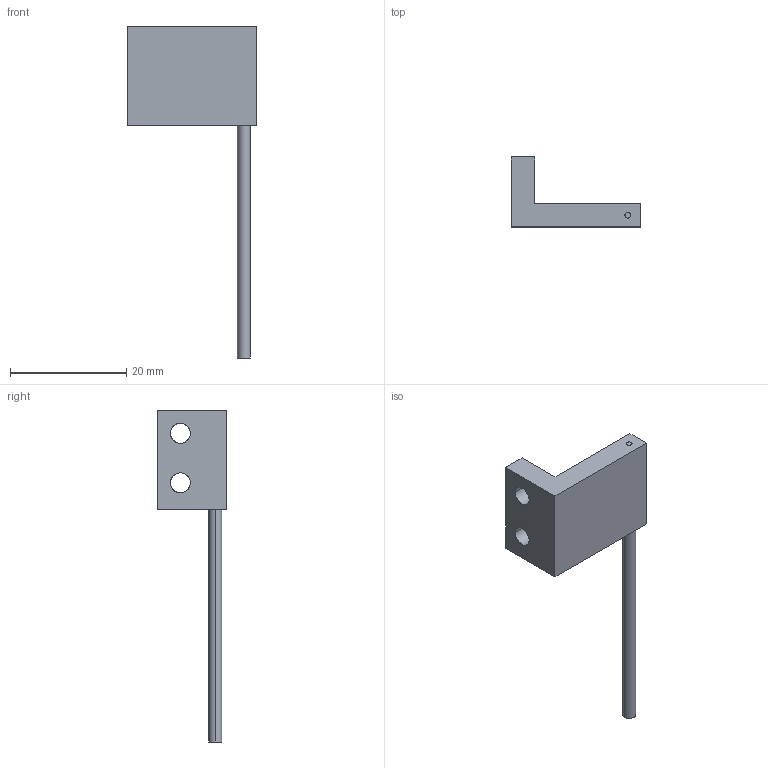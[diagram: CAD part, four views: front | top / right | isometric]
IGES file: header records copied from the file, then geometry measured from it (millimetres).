
Start section: SolidWorks IGES file using analytic representation for surfaces
Global section: file name: C:\Users\10118109\Desktop\堡拳捞滚季辑_肯丰\11瞒 犁累己_2瞒 累诀_荐沥 器窃\FTLU2-310-10R\FTLU2-310-10R.IGS; native system: SolidWorks 2018; preprocessor: SolidWorks 2018; author: 10118109; date: 190618.112400; units: millimetre
Bounding box: 22.2 x 12 x 57 mm (x, y, z)
Surface area: 1730 mm2 (no closed solid volume)
Topology: 0 solids, 0 shells, 17 faces, 316 edges, 316 vertices
Faces by surface type: bspline 11, revolution 6
